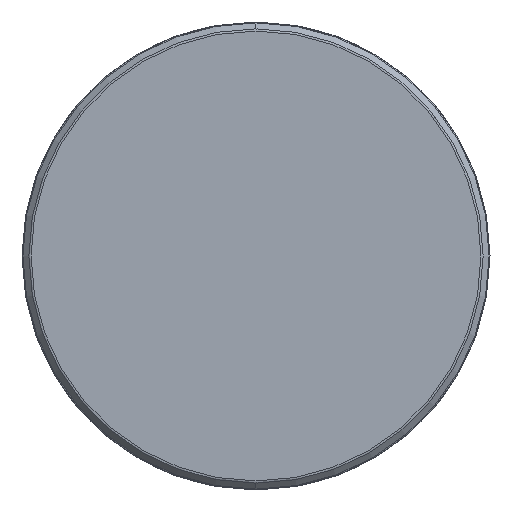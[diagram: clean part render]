
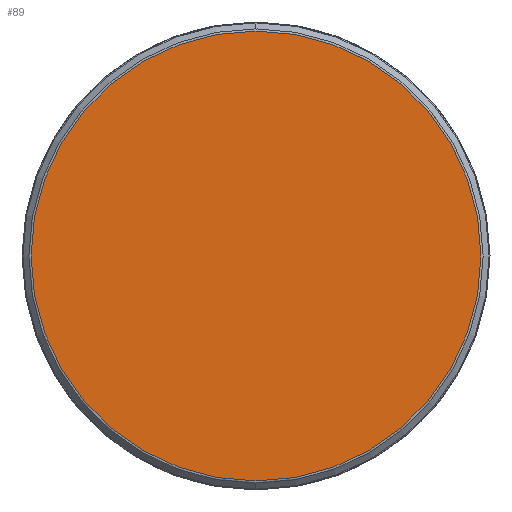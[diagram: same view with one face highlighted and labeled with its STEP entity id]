
A CAD part, front view. The second image highlights one B-rep face of the part: STEP entity #89.
In plain terms, the highlighted free-form (B-spline) face has degree [1, 1] with [2, 2] control points.
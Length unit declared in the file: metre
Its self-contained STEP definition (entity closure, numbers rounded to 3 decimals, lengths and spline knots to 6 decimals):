
#89 = ADVANCED_FACE( '', ( #123 ), #124, .F. );
#123 = FACE_OUTER_BOUND( '', #324, .T. );
#124 = B_SPLINE_SURFACE_WITH_KNOTS( '', 1, 1, ( ( #325, #326 ), ( #327, #328 ) ), .UNSPECIFIED., .F., .F., .F., ( 2, 2 ), ( 2, 2 ), ( 0., 1. ), ( 0., 1. ), .UNSPECIFIED. );
#324 = EDGE_LOOP( '', ( #475, #476 ) );
#325 = CARTESIAN_POINT( '', ( -0.01459, 0., -0.01459 ) );
#326 = CARTESIAN_POINT( '', ( 0.01459, 0., -0.01459 ) );
#327 = CARTESIAN_POINT( '', ( -0.01459, 0., 0.01459 ) );
#328 = CARTESIAN_POINT( '', ( 0.01459, 0., 0.01459 ) );
#475 = ORIENTED_EDGE( '', *, *, #545, .F. );
#476 = ORIENTED_EDGE( '', *, *, #547, .F. );
#545 = EDGE_CURVE( '', #596, #598, #599, .T. );
#547 = EDGE_CURVE( '', #598, #596, #601, .T. );
#596 = VERTEX_POINT( '', #718 );
#598 = VERTEX_POINT( '', #730 );
#599 = CIRCLE( '', #731, 0.014417 );
#601 = CIRCLE( '', #743, 0.014417 );
#718 = CARTESIAN_POINT( '', ( 0., 0., 0.014417 ) );
#730 = CARTESIAN_POINT( '', ( 0., 0., -0.014417 ) );
#731 = AXIS2_PLACEMENT_3D( '', #826, #827, #828 );
#743 = AXIS2_PLACEMENT_3D( '', #829, #830, #831 );
#826 = CARTESIAN_POINT( '', ( 0., 0., 0. ) );
#827 = DIRECTION( '', ( 0., 1., 0. ) );
#828 = DIRECTION( '', ( -1., 0., 0. ) );
#829 = CARTESIAN_POINT( '', ( 0., 0., 0. ) );
#830 = DIRECTION( '', ( 0., 1., 0. ) );
#831 = DIRECTION( '', ( -1., 0., 0. ) );
